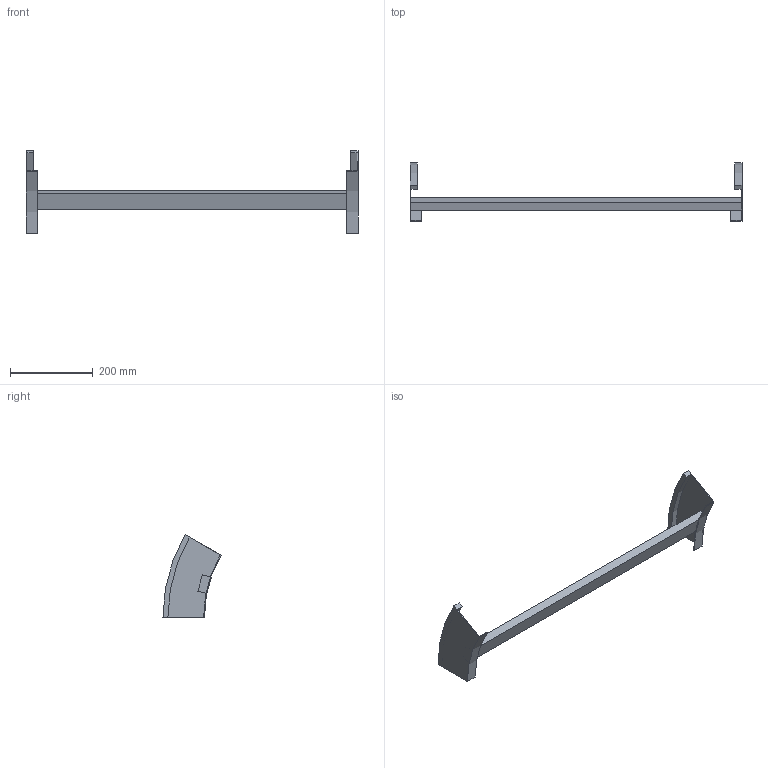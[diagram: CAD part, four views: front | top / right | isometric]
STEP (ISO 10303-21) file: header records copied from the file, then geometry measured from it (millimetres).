
FILE_DESCRIPTION (( 'STEP AP214' ), '1' );
FILE_NAME ('B2_35B3D800.step', '2025-02-21T14:47:05', ( '' ), ( '' ), 'SwSTEP 2.0', 'SolidWorks 2023', '' );
FILE_SCHEMA (( 'AUTOMOTIVE_DESIGN' ));
Length unit declared in the file: millimetre
Products named in the file (3): B2_LONGH.DISCESA_30°_H100_R300; TRAVERSINO_800; B2_35B3D800
Assembly tree (3 placements, depth 2):
  B2_35B3D800
    B2_LONGH.DISCESA_30°_H100_R300  x2
    TRAVERSINO_800
Bounding box: 800 x 140.19 x 200 mm (x, y, z)
Volume: 813042.6 mm3; surface area: 203437.3 mm2
Topology: 3 solids, 3 shells, 26 faces, 60 edges, 40 vertices
Faces by surface type: plane 18, cylinder 8
Entity records: 544 total; most frequent: DIRECTION 88, CARTESIAN_POINT 82, ORIENTED_EDGE 72, EDGE_CURVE 36, AXIS2_PLACEMENT_3D 30, VECTOR 28, LINE 28, VERTEX_POINT 24
